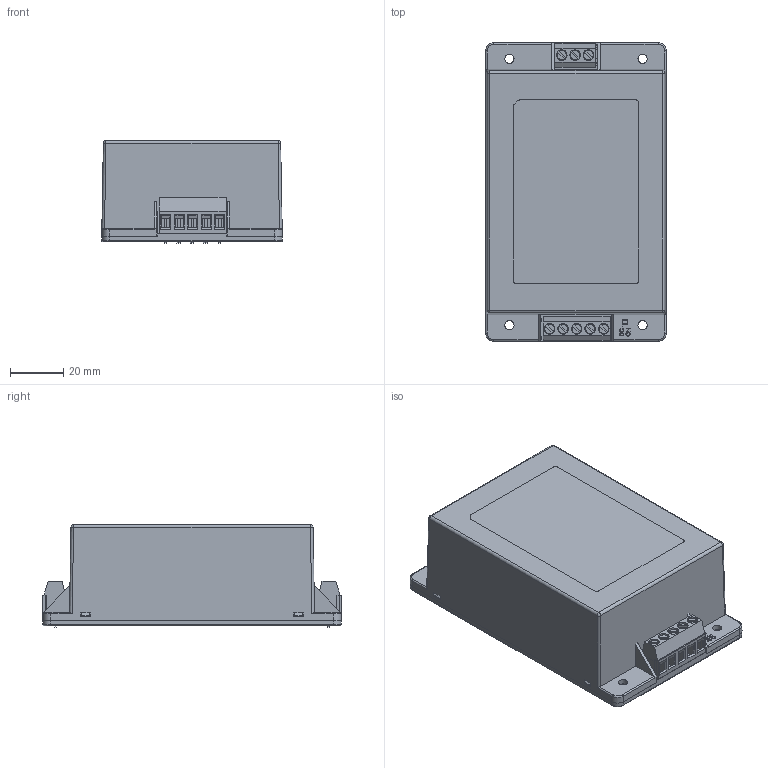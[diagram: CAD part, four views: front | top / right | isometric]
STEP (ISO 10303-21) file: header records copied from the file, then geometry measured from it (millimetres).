
FILE_DESCRIPTION((''),'2;1');
FILE_NAME('C:\Documents and Settings\COSMOS\桌面\DTE60.stp','2016-11-02T13:36:52',('COSMOS'),(''),'Autodesk Inventor 2008','Autodesk Inventor 2008','');
FILE_SCHEMA(('AUTOMOTIVE_DESIGN { 1 0 10303 214 1 1 1 1 }'));
Length unit declared in the file: millimetre
Products named in the file (7): DTE60; DTE60 BASE; DTE60 CASE; 實體1A; 實體1B; Connect(5PIN); Connect(3PIN)
Assembly tree (6 placements, depth 3):
  DTE60
    DTE60 BASE
    DTE60 CASE
      實體1A
      實體1B
    Connect(5PIN)
    Connect(3PIN)
Bounding box: 67.8 x 112 x 38.65 mm (x, y, z)
Volume: 208089.6 mm3; surface area: 49989.8 mm2
Topology: 5 solids, 5 shells, 654 faces, 1679 edges, 1093 vertices
Faces by surface type: plane 493, cylinder 119, bspline 32, torus 4, sphere 4, cone 2
Full cylindrical faces by diameter (mm): 1.5 x4, 2.459 x1, 3.4 x2, 3.5 x8, 4 x9, 4.08 x5, 5.3 x1, 6.5 x1, 8 x1
Entity records: 20848 total; most frequent: CARTESIAN_POINT 4897, ORIENTED_EDGE 3258, DIRECTION 3084, EDGE_CURVE 1629, VECTOR 1324, LINE 1324, VERTEX_POINT 1081, AXIS2_PLACEMENT_3D 880
